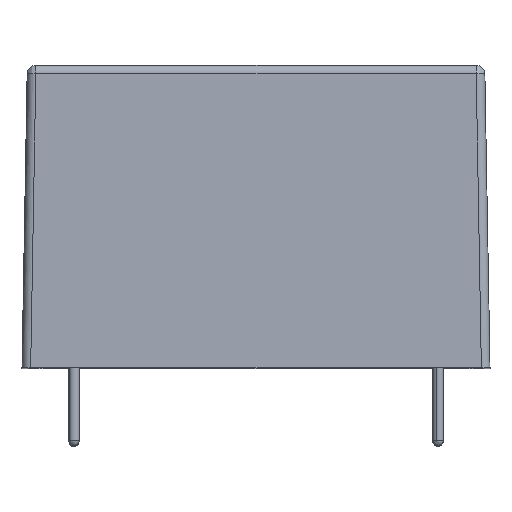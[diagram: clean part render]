
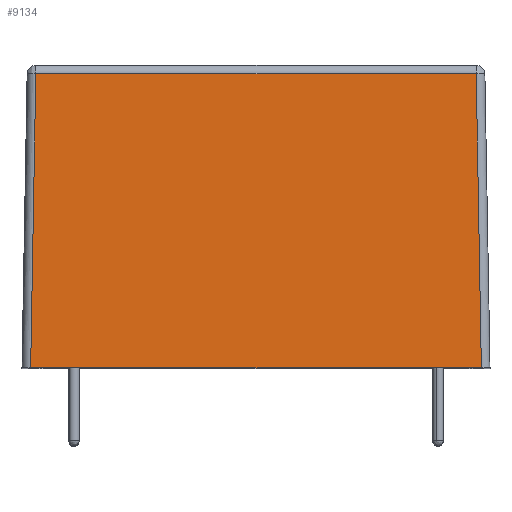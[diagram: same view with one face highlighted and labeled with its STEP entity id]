
A CAD part, top view. The second image highlights one B-rep face of the part: STEP entity #9134.
In plain terms, the highlighted planar face has unit normal (0, 0.018, 1).
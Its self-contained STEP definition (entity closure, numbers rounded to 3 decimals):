
#625 = CARTESIAN_POINT ( 'NONE',  ( 13.5, -17.45, 18.25 ) ) ;
#680 = ORIENTED_EDGE ( 'NONE', *, *, #9066, .T. ) ;
#780 = DIRECTION ( 'NONE',  ( -0.017, -1., 0.017 ) ) ;
#1891 = CARTESIAN_POINT ( 'NONE',  ( -13.5, -0.491, 17.954 ) ) ;
#1935 = DIRECTION ( 'NONE',  ( -0.017, 1., -0.017 ) ) ;
#2067 = LINE ( 'NONE', #625, #4794 ) ;
#2195 = EDGE_LOOP ( 'NONE', ( #5164, #5073, #680, #5806 ) ) ;
#2331 = VERTEX_POINT ( 'NONE', #7425 ) ;
#2399 = CARTESIAN_POINT ( 'NONE',  ( -12.704, -0.491, 17.954 ) ) ;
#2645 = DIRECTION ( 'NONE',  ( 1., 0., 0. ) ) ;
#2899 = VECTOR ( 'NONE', #780, 1000. ) ;
#3222 = VECTOR ( 'NONE', #2645, 1000. ) ;
#3270 = VERTEX_POINT ( 'NONE', #6577 ) ;
#3787 = CARTESIAN_POINT ( 'NONE',  ( -12.704, -0.491, 17.954 ) ) ;
#4247 = AXIS2_PLACEMENT_3D ( 'NONE', #9063, #9827, #5271 ) ;
#4625 = LINE ( 'NONE', #6486, #8679 ) ;
#4794 = VECTOR ( 'NONE', #8202, 1000. ) ;
#5073 = ORIENTED_EDGE ( 'NONE', *, *, #8670, .T. ) ;
#5164 = ORIENTED_EDGE ( 'NONE', *, *, #8876, .F. ) ;
#5271 = DIRECTION ( 'NONE',  ( 0., -1., 0.017 ) ) ;
#5806 = ORIENTED_EDGE ( 'NONE', *, *, #6895, .T. ) ;
#6486 = CARTESIAN_POINT ( 'NONE',  ( 13., -17.45, 18.25 ) ) ;
#6577 = CARTESIAN_POINT ( 'NONE',  ( -13., -17.45, 18.25 ) ) ;
#6895 = EDGE_CURVE ( 'NONE', #2331, #8529, #4625, .T. ) ;
#7171 = FACE_OUTER_BOUND ( 'NONE', #2195, .T. ) ;
#7425 = CARTESIAN_POINT ( 'NONE',  ( 13., -17.45, 18.25 ) ) ;
#7534 = LINE ( 'NONE', #1891, #3222 ) ;
#8202 = DIRECTION ( 'NONE',  ( 1., 0., 0. ) ) ;
#8276 = VERTEX_POINT ( 'NONE', #2399 ) ;
#8285 = PLANE ( 'NONE',  #4247 ) ;
#8529 = VERTEX_POINT ( 'NONE', #9680 ) ;
#8670 = EDGE_CURVE ( 'NONE', #8276, #3270, #8987, .T. ) ;
#8679 = VECTOR ( 'NONE', #1935, 1000. ) ;
#8876 = EDGE_CURVE ( 'NONE', #8276, #8529, #7534, .T. ) ;
#8987 = LINE ( 'NONE', #3787, #2899 ) ;
#9063 = CARTESIAN_POINT ( 'NONE',  ( 13.5, -17.45, 18.25 ) ) ;
#9066 = EDGE_CURVE ( 'NONE', #3270, #2331, #2067, .T. ) ;
#9134 = ADVANCED_FACE ( 'NONE', ( #7171 ), #8285, .T. ) ;
#9680 = CARTESIAN_POINT ( 'NONE',  ( 12.704, -0.491, 17.954 ) ) ;
#9827 = DIRECTION ( 'NONE',  ( 0., 0.017, 1. ) ) ;
